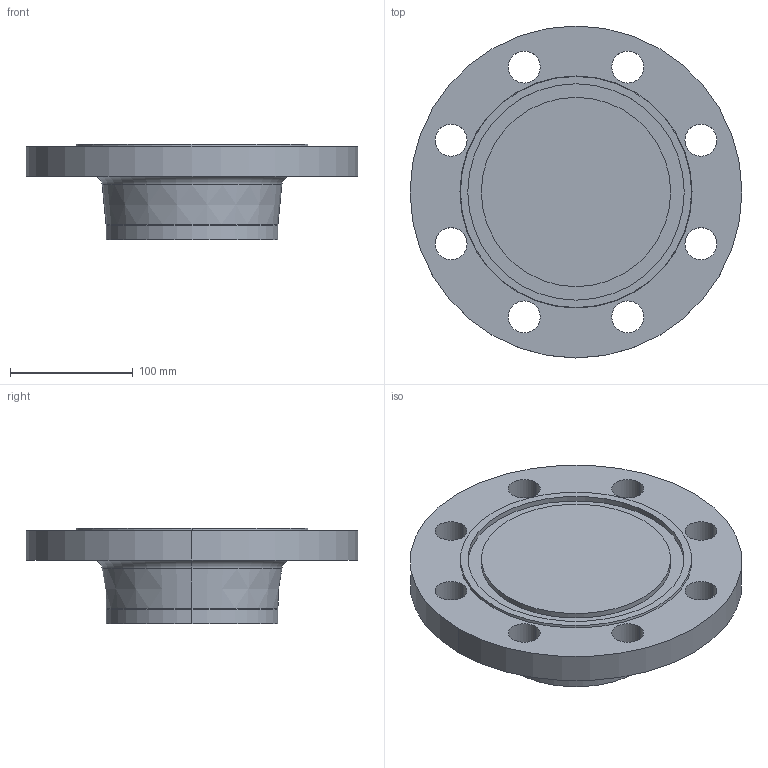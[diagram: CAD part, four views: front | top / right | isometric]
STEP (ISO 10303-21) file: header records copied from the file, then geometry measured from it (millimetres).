
FILE_DESCRIPTION (( 'STEP AP214' ), '1' );
FILE_NAME ('PN40 DN125 Type 21(ii) - Type D Face.STEP', '2019-01-02T01:14:08', ( '' ), ( '' ), 'SwSTEP 2.0', 'SolidWorks 2019', '' );
FILE_SCHEMA (( 'AUTOMOTIVE_DESIGN' ));
Length unit declared in the file: millimetre
Products named in the file (1): PN40 DN125 Type 21(ii) - Type D Face
Bounding box: 270 x 270 x 78 mm (x, y, z)
Volume: 2138972.7 mm3; surface area: 168113.2 mm2
Topology: 1 solids, 1 shells, 38 faces, 90 edges, 58 vertices
Faces by surface type: cylinder 24, plane 6, torus 4, cone 4
Entity records: 1194 total; most frequent: DIRECTION 230, CARTESIAN_POINT 187, ORIENTED_EDGE 180, AXIS2_PLACEMENT_3D 101, EDGE_CURVE 90, CIRCLE 62, VERTEX_POINT 58, EDGE_LOOP 58
